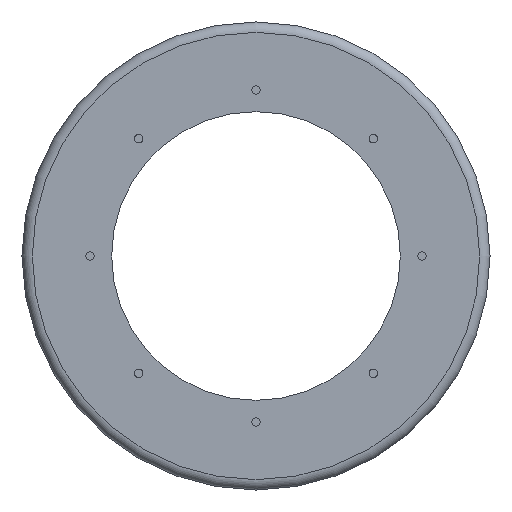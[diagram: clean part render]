
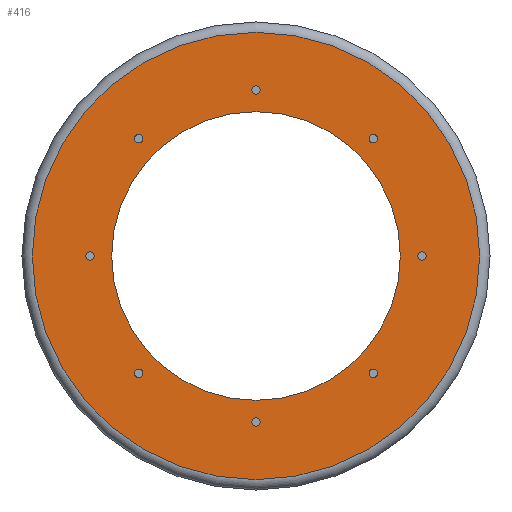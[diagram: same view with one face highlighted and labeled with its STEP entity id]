
A CAD part, front view. The second image highlights one B-rep face of the part: STEP entity #416.
In plain terms, the highlighted planar face has unit normal (0, -1, 0).
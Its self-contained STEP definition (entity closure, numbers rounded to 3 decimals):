
#27=PLANE('',#483);
#56=FACE_BOUND('',#153,.T.);
#57=FACE_BOUND('',#154,.T.);
#58=FACE_BOUND('',#155,.T.);
#59=FACE_BOUND('',#156,.T.);
#60=FACE_BOUND('',#157,.T.);
#61=FACE_BOUND('',#158,.T.);
#62=FACE_BOUND('',#159,.T.);
#63=FACE_BOUND('',#160,.T.);
#64=FACE_BOUND('',#161,.T.);
#94=FACE_OUTER_BOUND('',#152,.T.);
#152=EDGE_LOOP('',(#342));
#153=EDGE_LOOP('',(#343));
#154=EDGE_LOOP('',(#344));
#155=EDGE_LOOP('',(#345));
#156=EDGE_LOOP('',(#346));
#157=EDGE_LOOP('',(#347));
#158=EDGE_LOOP('',(#348));
#159=EDGE_LOOP('',(#349));
#160=EDGE_LOOP('',(#350));
#161=EDGE_LOOP('',(#351));
#208=CIRCLE('',#482,217.);
#209=CIRCLE('',#484,140.);
#210=CIRCLE('',#485,4.);
#211=CIRCLE('',#486,4.);
#212=CIRCLE('',#487,4.);
#213=CIRCLE('',#488,4.);
#214=CIRCLE('',#489,4.);
#215=CIRCLE('',#490,4.);
#216=CIRCLE('',#491,4.);
#217=CIRCLE('',#492,4.);
#246=VERTEX_POINT('',#733);
#247=VERTEX_POINT('',#736);
#248=VERTEX_POINT('',#738);
#249=VERTEX_POINT('',#740);
#250=VERTEX_POINT('',#742);
#251=VERTEX_POINT('',#744);
#252=VERTEX_POINT('',#746);
#253=VERTEX_POINT('',#748);
#254=VERTEX_POINT('',#750);
#255=VERTEX_POINT('',#752);
#284=EDGE_CURVE('',#246,#246,#208,.T.);
#285=EDGE_CURVE('',#247,#247,#209,.T.);
#286=EDGE_CURVE('',#248,#248,#210,.T.);
#287=EDGE_CURVE('',#249,#249,#211,.T.);
#288=EDGE_CURVE('',#250,#250,#212,.T.);
#289=EDGE_CURVE('',#251,#251,#213,.T.);
#290=EDGE_CURVE('',#252,#252,#214,.T.);
#291=EDGE_CURVE('',#253,#253,#215,.T.);
#292=EDGE_CURVE('',#254,#254,#216,.T.);
#293=EDGE_CURVE('',#255,#255,#217,.T.);
#342=ORIENTED_EDGE('',*,*,#284,.F.);
#343=ORIENTED_EDGE('',*,*,#285,.T.);
#344=ORIENTED_EDGE('',*,*,#286,.T.);
#345=ORIENTED_EDGE('',*,*,#287,.T.);
#346=ORIENTED_EDGE('',*,*,#288,.T.);
#347=ORIENTED_EDGE('',*,*,#289,.T.);
#348=ORIENTED_EDGE('',*,*,#290,.T.);
#349=ORIENTED_EDGE('',*,*,#291,.T.);
#350=ORIENTED_EDGE('',*,*,#292,.T.);
#351=ORIENTED_EDGE('',*,*,#293,.T.);
#416=ADVANCED_FACE('',(#94,#56,#57,#58,#59,#60,#61,#62,#63,#64),#27,.F.);
#482=AXIS2_PLACEMENT_3D('',#734,#600,#601);
#483=AXIS2_PLACEMENT_3D('',#735,#602,#603);
#484=AXIS2_PLACEMENT_3D('',#737,#604,#605);
#485=AXIS2_PLACEMENT_3D('',#739,#606,#607);
#486=AXIS2_PLACEMENT_3D('',#741,#608,#609);
#487=AXIS2_PLACEMENT_3D('',#743,#610,#611);
#488=AXIS2_PLACEMENT_3D('',#745,#612,#613);
#489=AXIS2_PLACEMENT_3D('',#747,#614,#615);
#490=AXIS2_PLACEMENT_3D('',#749,#616,#617);
#491=AXIS2_PLACEMENT_3D('',#751,#618,#619);
#492=AXIS2_PLACEMENT_3D('',#753,#620,#621);
#600=DIRECTION('center_axis',(0.,1.,0.));
#601=DIRECTION('ref_axis',(1.,0.,0.));
#602=DIRECTION('center_axis',(0.,1.,0.));
#603=DIRECTION('ref_axis',(0.,0.,1.));
#604=DIRECTION('center_axis',(0.,1.,0.));
#605=DIRECTION('ref_axis',(1.,0.,0.));
#606=DIRECTION('center_axis',(0.,1.,0.));
#607=DIRECTION('ref_axis',(1.,0.,0.));
#608=DIRECTION('center_axis',(0.,1.,0.));
#609=DIRECTION('ref_axis',(0.707,0.,-0.707));
#610=DIRECTION('center_axis',(0.,1.,0.));
#611=DIRECTION('ref_axis',(0.,0.,-1.));
#612=DIRECTION('center_axis',(0.,1.,0.));
#613=DIRECTION('ref_axis',(-0.707,0.,-0.707));
#614=DIRECTION('center_axis',(0.,1.,0.));
#615=DIRECTION('ref_axis',(-1.,0.,0.));
#616=DIRECTION('center_axis',(0.,1.,0.));
#617=DIRECTION('ref_axis',(-0.707,0.,0.707));
#618=DIRECTION('center_axis',(0.,1.,0.));
#619=DIRECTION('ref_axis',(0.,0.,1.));
#620=DIRECTION('center_axis',(0.,1.,0.));
#621=DIRECTION('ref_axis',(0.707,0.,0.707));
#733=CARTESIAN_POINT('',(-217.,-600.,0.));
#734=CARTESIAN_POINT('Origin',(0.,-600.,0.));
#735=CARTESIAN_POINT('Origin',(0.,-600.,0.));
#736=CARTESIAN_POINT('',(-140.,-600.,0.));
#737=CARTESIAN_POINT('Origin',(0.,-600.,0.));
#738=CARTESIAN_POINT('',(4.,-600.,161.));
#739=CARTESIAN_POINT('Origin',(0.,-600.,161.));
#740=CARTESIAN_POINT('',(116.673,-600.,111.016));
#741=CARTESIAN_POINT('Origin',(113.844,-600.,113.844));
#742=CARTESIAN_POINT('',(161.,-600.,-4.));
#743=CARTESIAN_POINT('Origin',(161.,-600.,0.));
#744=CARTESIAN_POINT('',(111.016,-600.,-116.673));
#745=CARTESIAN_POINT('Origin',(113.844,-600.,-113.844));
#746=CARTESIAN_POINT('',(-4.,-600.,-161.));
#747=CARTESIAN_POINT('Origin',(0.,-600.,-161.));
#748=CARTESIAN_POINT('',(-116.673,-600.,-111.016));
#749=CARTESIAN_POINT('Origin',(-113.844,-600.,-113.844));
#750=CARTESIAN_POINT('',(-161.,-600.,4.));
#751=CARTESIAN_POINT('Origin',(-161.,-600.,0.));
#752=CARTESIAN_POINT('',(-111.016,-600.,116.673));
#753=CARTESIAN_POINT('Origin',(-113.844,-600.,113.844));
